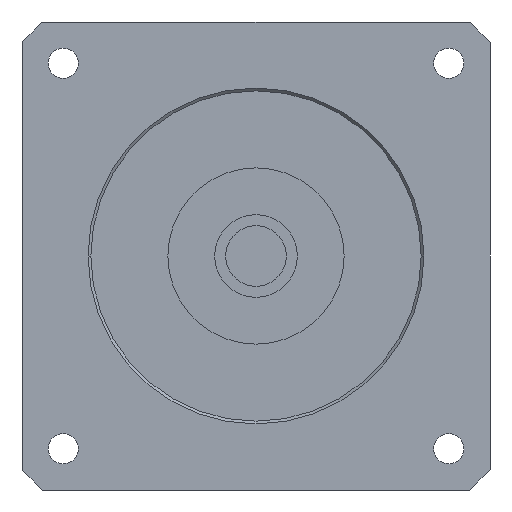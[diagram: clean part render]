
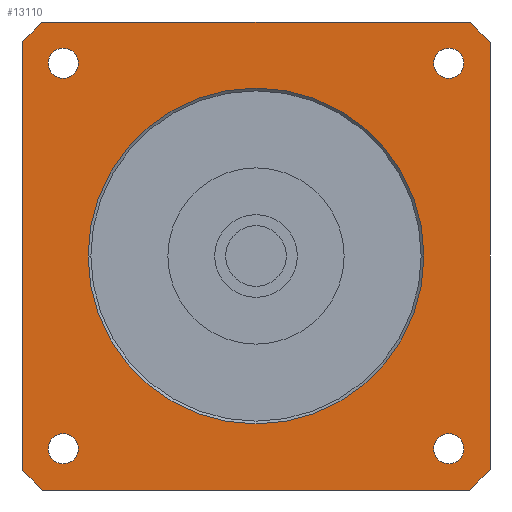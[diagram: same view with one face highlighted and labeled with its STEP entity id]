
A CAD part, left-side view. The second image highlights one B-rep face of the part: STEP entity #13110.
In plain terms, the highlighted planar face has unit normal (-1, 0, 0) as drawn and (0, 0, -1) by its records, which use the part's own axes.
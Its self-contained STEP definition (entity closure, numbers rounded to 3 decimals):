
#8680=CARTESIAN_POINT('',(-37.752,35.002,-36.));
#8690=VERTEX_POINT('',#8680);
#8870=CARTESIAN_POINT('',(-32.252,35.002,-36.));
#8880=VERTEX_POINT('',#8870);
#8910=CARTESIAN_POINT('',(-35.002,35.002,-36.));
#8920=DIRECTION('',(0.,0.,-1.));
#8930=DIRECTION('',(1.,0.,0.));
#8940=AXIS2_PLACEMENT_3D('',#8910,#8920,#8930);
#8950=CIRCLE('',#8940,2.75);
#8960=EDGE_CURVE('',#8690,#8880,#8950,.T.);
#9100=CARTESIAN_POINT('',(32.252,35.002,-36.));
#9110=VERTEX_POINT('',#9100);
#9290=CARTESIAN_POINT('',(37.752,35.002,-36.));
#9300=VERTEX_POINT('',#9290);
#9330=CARTESIAN_POINT('',(35.002,35.002,-36.));
#9340=DIRECTION('',(0.,0.,-1.));
#9350=DIRECTION('',(1.,0.,0.));
#9360=AXIS2_PLACEMENT_3D('',#9330,#9340,#9350);
#9370=CIRCLE('',#9360,2.75);
#9380=EDGE_CURVE('',#9110,#9300,#9370,.T.);
#11680=CARTESIAN_POINT('',(30.5,0.,-36.));
#11690=VERTEX_POINT('',#11680);
#11720=CARTESIAN_POINT('',(0.,0.,
-36.));
#11730=DIRECTION('',(0.,0.,1.));
#11740=DIRECTION('',(-1.,0.,0.));
#11750=AXIS2_PLACEMENT_3D('',#11720,#11730,#11740);
#11760=CIRCLE('',#11750,30.5);
#11770=CARTESIAN_POINT('',(-30.5,0.,-36.));
#11780=VERTEX_POINT('',#11770);
#11790=EDGE_CURVE('',#11690,#11780,#11760,.T.);
#11910=CARTESIAN_POINT('',(42.5,42.5,-36.));
#11920=DIRECTION('',(0.,0.,1.));
#11930=DIRECTION('',(-1.,0.,0.));
#11940=AXIS2_PLACEMENT_3D('',#11910,#11920,#11930);
#11950=PLANE('',#11940);
#11960=EDGE_CURVE('',#11780,#11690,#11760,.T.);
#11970=ORIENTED_EDGE('',*,*,#11960,.T.);
#11980=ORIENTED_EDGE('',*,*,#11790,.T.);
#11990=EDGE_LOOP('',(#11980,#11970));
#12000=FACE_BOUND('',#11990,.T.);
#12010=CARTESIAN_POINT('',(-35.002,-35.002,-36.));
#12020=DIRECTION('',(0.,0.,-1.));
#12030=DIRECTION('',(1.,0.,0.));
#12040=AXIS2_PLACEMENT_3D('',#12010,#12020,#12030);
#12050=CIRCLE('',#12040,2.75);
#12060=CARTESIAN_POINT('',(-32.252,-35.002,-36.));
#12070=VERTEX_POINT('',#12060);
#12080=CARTESIAN_POINT('',(-37.752,-35.002,-36.));
#12090=VERTEX_POINT('',#12080);
#12100=EDGE_CURVE('',#12070,#12090,#12050,.T.);
#12110=ORIENTED_EDGE('',*,*,#12100,.F.);
#12120=EDGE_CURVE('',#12090,#12070,#12050,.T.);
#12130=ORIENTED_EDGE('',*,*,#12120,.F.);
#12140=EDGE_LOOP('',(#12130,#12110));
#12150=FACE_BOUND('',#12140,.T.);
#12160=CARTESIAN_POINT('',(35.002,-35.002,-36.));
#12170=DIRECTION('',(0.,0.,-1.));
#12180=DIRECTION('',(1.,0.,0.));
#12190=AXIS2_PLACEMENT_3D('',#12160,#12170,#12180);
#12200=CIRCLE('',#12190,2.75);
#12210=CARTESIAN_POINT('',(37.752,-35.002,-36.));
#12220=VERTEX_POINT('',#12210);
#12230=CARTESIAN_POINT('',(32.252,-35.002,-36.));
#12240=VERTEX_POINT('',#12230);
#12250=EDGE_CURVE('',#12220,#12240,#12200,.T.);
#12260=ORIENTED_EDGE('',*,*,#12250,.F.);
#12270=EDGE_CURVE('',#12240,#12220,#12200,.T.);
#12280=ORIENTED_EDGE('',*,*,#12270,.F.);
#12290=EDGE_LOOP('',(#12280,#12260));
#12300=FACE_BOUND('',#12290,.T.);
#12310=EDGE_CURVE('',#9300,#9110,#9370,.T.);
#12320=ORIENTED_EDGE('',*,*,#12310,.F.);
#12330=ORIENTED_EDGE('',*,*,#9380,.F.);
#12340=EDGE_LOOP('',(#12330,#12320));
#12350=FACE_BOUND('',#12340,.T.);
#12360=EDGE_CURVE('',#8880,#8690,#8950,.T.);
#12370=ORIENTED_EDGE('',*,*,#12360,.F.);
#12380=ORIENTED_EDGE('',*,*,#8960,.F.);
#12390=EDGE_LOOP('',(#12380,#12370));
#12400=FACE_BOUND('',#12390,.T.);
#12410=CARTESIAN_POINT('',(0.,0.,
-36.));
#12420=DIRECTION('',(0.,0.,1.));
#12430=DIRECTION('',(1.,0.,0.));
#12440=AXIS2_PLACEMENT_3D('',#12410,#12420,#12430);
#12450=CIRCLE('',#12440,57.5);
#12460=CARTESIAN_POINT('',(-42.5,-38.73,-36.));
#12470=VERTEX_POINT('',#12460);
#12480=CARTESIAN_POINT('',(-38.73,-42.5,-36.));
#12490=VERTEX_POINT('',#12480);
#12500=EDGE_CURVE('',#12470,#12490,#12450,.T.);
#12510=ORIENTED_EDGE('',*,*,#12500,.F.);
#12520=CARTESIAN_POINT('',(-42.5,-42.5,-36.));
#12530=DIRECTION('',(1.,0.,0.));
#12540=VECTOR('',#12530,1000.);
#12550=LINE('',#12520,#12540);
#12560=CARTESIAN_POINT('',(38.73,-42.5,-36.));
#12570=VERTEX_POINT('',#12560);
#12580=EDGE_CURVE('',#12490,#12570,#12550,.T.);
#12590=ORIENTED_EDGE('',*,*,#12580,.F.);
#12600=CARTESIAN_POINT('',(0.,0.,
-36.));
#12610=DIRECTION('',(0.,0.,1.));
#12620=DIRECTION('',(1.,0.,0.));
#12630=AXIS2_PLACEMENT_3D('',#12600,#12610,#12620);
#12640=CIRCLE('',#12630,57.5);
#12650=CARTESIAN_POINT('',(42.5,-38.73,-36.));
#12660=VERTEX_POINT('',#12650);
#12670=EDGE_CURVE('',#12570,#12660,#12640,.T.);
#12680=ORIENTED_EDGE('',*,*,#12670,.F.);
#12690=CARTESIAN_POINT('',(42.5,-42.5,-36.));
#12700=DIRECTION('',(0.,1.,0.));
#12710=VECTOR('',#12700,1000.);
#12720=LINE('',#12690,#12710);
#12730=CARTESIAN_POINT('',(42.5,38.73,-36.));
#12740=VERTEX_POINT('',#12730);
#12750=EDGE_CURVE('',#12660,#12740,#12720,.T.);
#12760=ORIENTED_EDGE('',*,*,#12750,.F.);
#12770=CARTESIAN_POINT('',(0.,0.,
-36.));
#12780=DIRECTION('',(0.,0.,1.));
#12790=DIRECTION('',(1.,0.,0.));
#12800=AXIS2_PLACEMENT_3D('',#12770,#12780,#12790);
#12810=CIRCLE('',#12800,57.5);
#12820=CARTESIAN_POINT('',(38.73,42.5,-36.));
#12830=VERTEX_POINT('',#12820);
#12840=EDGE_CURVE('',#12740,#12830,#12810,.T.);
#12850=ORIENTED_EDGE('',*,*,#12840,.F.);
#12860=CARTESIAN_POINT('',(42.5,42.5,-36.));
#12870=DIRECTION('',(-1.,0.,0.));
#12880=VECTOR('',#12870,1000.);
#12890=LINE('',#12860,#12880);
#12900=CARTESIAN_POINT('',(-38.73,42.5,-36.));
#12910=VERTEX_POINT('',#12900);
#12920=EDGE_CURVE('',#12830,#12910,#12890,.T.);
#12930=ORIENTED_EDGE('',*,*,#12920,.F.);
#12940=CARTESIAN_POINT('',(0.,0.,
-36.));
#12950=DIRECTION('',(0.,0.,1.));
#12960=DIRECTION('',(1.,0.,0.));
#12970=AXIS2_PLACEMENT_3D('',#12940,#12950,#12960);
#12980=CIRCLE('',#12970,57.5);
#12990=CARTESIAN_POINT('',(-42.5,38.73,-36.));
#13000=VERTEX_POINT('',#12990);
#13010=EDGE_CURVE('',#12910,#13000,#12980,.T.);
#13020=ORIENTED_EDGE('',*,*,#13010,.F.);
#13030=CARTESIAN_POINT('',(-42.5,42.5,-36.));
#13040=DIRECTION('',(0.,-1.,0.));
#13050=VECTOR('',#13040,1000.);
#13060=LINE('',#13030,#13050);
#13070=EDGE_CURVE('',#13000,#12470,#13060,.T.);
#13080=ORIENTED_EDGE('',*,*,#13070,.F.);
#13090=EDGE_LOOP('',(#13080,#13020,#12930,#12850,#12760,#12680,#12590,
#12510));
#13100=FACE_OUTER_BOUND('',#13090,.T.);
#13110=ADVANCED_FACE('',(#12000,#12150,#12300,#12350,#12400,#13100),
#11950,.F.);
